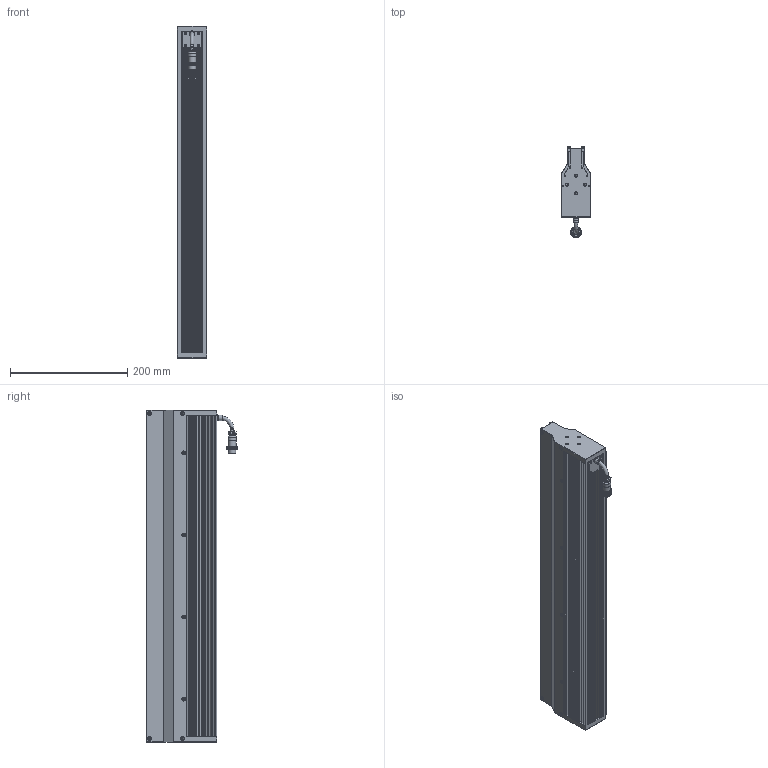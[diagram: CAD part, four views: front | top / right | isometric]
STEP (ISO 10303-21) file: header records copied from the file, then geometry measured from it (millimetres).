
FILE_DESCRIPTION (( 'STEP AP203' ), '1' );
FILE_NAME ('OPT-LSNL566-W-V1.1尨砩芞.STEP', '2025-02-18T03:04:48', ( '' ), ( '' ), 'SwSTEP 2.0', 'SolidWorks 2016', '' );
FILE_SCHEMA (( 'CONFIG_CONTROL_DESIGN' ));
Products named in the file (1): OPT-LSNL566-W-V1.1尨砩芞
Bounding box: 50.01 x 155.15 x 566 mm (x, y, z)
Volume: 2046801.8 mm3; surface area: 677119.6 mm2
Topology: 5 solids, 10 shells, 3605 faces, 8207 edges, 4632 vertices
Faces by surface type: bspline 2059, cylinder 757, plane 742, cone 39, torus 8
Full cylindrical faces by diameter (mm): 0.95 x6, 1.1 x2, 1.4 x2, 2 x4, 2.5 x10, 3 x12, 3.4 x16, 3.5 x4, 5 x8, 6.4 x3, 7.5 x1, 8.6 x1, 9.3 x1, 9.8 x1, 10 x1, 13.2 x1, 14 x1, 16.1 x1
Entity records: 126170 total; most frequent: CARTESIAN_POINT 64828, ORIENTED_EDGE 16046, EDGE_CURVE 8023, DIRECTION 5943, B_SPLINE_CURVE_WITH_KNOTS 5589, VERTEX_POINT 4574, EDGE_LOOP 3797, FACE_OUTER_BOUND 3688
